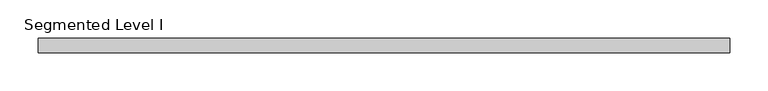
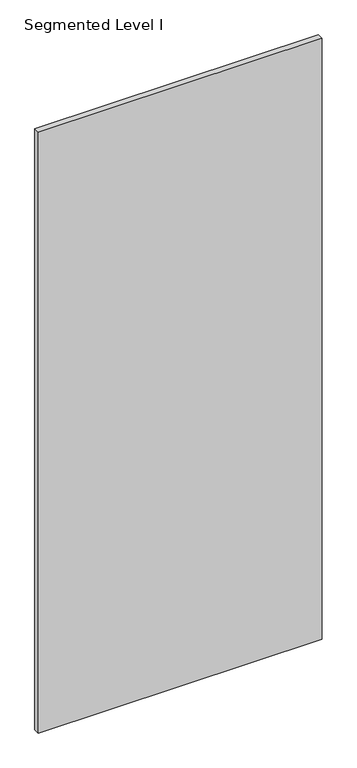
"""IFC4 building model written with IfcOpenShell, lengths in millimetres: proxy geometry, Panel-Fascia-Teknion-Altos-Standard : Segmented Level I."""

import ifcopenshell
import ifcopenshell.guid

model = None  # the IFC model being written
_history = None  # IfcOwnerHistory: only IFC2X3 demands one
_inside = {}  # id of a spatial element -> (the spatial element, [elements in it])
_under = {}  # id of a project, library or spatial element -> (it, [spatial elements below it])
_declared = {}  # id of a project -> (the project, [libraries it declares])
_typed = {}  # id of a type object -> (the type object, [elements of that type])
_made_of = {}  # id of a material, layer set ... -> (it, [elements and type objects made of it])


def new_model(schema):
    """Start an empty IFC model of exactly this schema.

    Asked for "IFC4X3", IfcOpenShell would pick the latest addendum, in which some entities
    have other attributes; the version numbers below select the first issue.
    IFC2X3 requires an IfcOwnerHistory on every rooted entity: one is made here for all.
    """
    global model, _history
    if schema == "IFC4X3":
        model = ifcopenshell.file(schema_version=(4, 3, 0, 0))
    else:
        model = ifcopenshell.file(schema=schema)
    _inside.clear()
    _under.clear()
    _declared.clear()
    _typed.clear()
    _made_of.clear()
    _history = None
    if model.schema == "IFC2X3":
        org = make("IfcOrganization", Name="unknown")
        user = make(
            "IfcPersonAndOrganization",
            ThePerson=make("IfcPerson", FamilyName="unknown"),
            TheOrganization=org,
        )
        app = make(
            "IfcApplication",
            ApplicationDeveloper=org,
            Version="unknown",
            ApplicationFullName="unknown",
            ApplicationIdentifier="unknown",
        )
        _history = make(
            "IfcOwnerHistory",
            OwningUser=user,
            OwningApplication=app,
            ChangeAction="ADDED",
            CreationDate=0,
        )
    return model


def make(cls, **values):
    """One entity of the class cls with the attributes given. An attribute that is None is left unset."""
    return model.create_entity(
        cls, **{name: value for name, value in values.items() if value is not None}
    )


def rooted(cls, **values):
    """An entity with a GlobalId (a new one), such as an element, a storey or a relation."""
    return make(cls, GlobalId=ifcopenshell.guid.new(), OwnerHistory=_history, **values)


def si_unit(unit_type, name, prefix=None):
    """IfcSIUnit, for example si_unit("LENGTHUNIT", "METRE", prefix="MILLI")."""
    return make("IfcSIUnit", UnitType=unit_type, Prefix=prefix, Name=name)


def assignment(units):
    """IfcUnitAssignment: the units of a project."""
    return None if units is None else make("IfcUnitAssignment", Units=units)


def point(xyz):
    """IfcCartesianPoint."""
    return None if xyz is None else make("IfcCartesianPoint", Coordinates=xyz)


def direction(xyz):
    """IfcDirection."""
    return None if xyz is None else make("IfcDirection", DirectionRatios=xyz)


def frame(location, z_axis=None, x_axis=None):
    """IfcAxis2Placement3D, a coordinate frame: its origin and axes. An axis left out is left unset."""
    return make(
        "IfcAxis2Placement3D",
        Location=point(location),
        Axis=direction(z_axis),
        RefDirection=direction(x_axis),
    )


def origin():
    """The frame at (0, 0, 0) with its axes left unset."""
    return frame((0.0, 0.0, 0.0))


def place(relative_to, where):
    """IfcLocalPlacement: puts the frame where relative to a parent placement (None: the world)."""
    return make(
        "IfcLocalPlacement", PlacementRelTo=relative_to, RelativePlacement=where
    )


def context(
    kind, dimensions, precision=None, world=None, true_north=None, identifier=None
):
    """IfcGeometricRepresentationContext, for example the 3D "Model" context."""
    return make(
        "IfcGeometricRepresentationContext",
        ContextIdentifier=identifier,
        ContextType=kind,
        CoordinateSpaceDimension=dimensions,
        Precision=precision,
        WorldCoordinateSystem=world,
        TrueNorth=true_north,
    )


def project(units=None, contexts=None):
    """IfcProject with its units and contexts."""
    return rooted(
        "IfcProject",
        Name="project",
        RepresentationContexts=contexts,
        UnitsInContext=assignment(units),
    )


def spatial(cls, under=None, at=None, **own):
    """A site, building, storey or space (cls), placed at a placement, below another one or the project."""
    s = rooted(cls, ObjectPlacement=at, **own)
    if under is not None:
        _under.setdefault(under.id(), (under, []))[1].append(s)
    return s


def polyline(points):
    """IfcPolyline through the points."""
    return make("IfcPolyline", Points=[point(p) for p in points])


def outline(outer, holes=None, kind="AREA"):
    """IfcArbitraryClosedProfileDef: a profile drawn as a closed curve; with holes, ...WithVoids."""
    if holes is None:
        return make("IfcArbitraryClosedProfileDef", ProfileType=kind, OuterCurve=outer)
    return make(
        "IfcArbitraryProfileDefWithVoids",
        ProfileType=kind,
        OuterCurve=outer,
        InnerCurves=holes,
    )


def extrude(swept, where, along, depth):
    """IfcExtrudedAreaSolid: the profile swept, set in the frame where, extruded along a direction by depth."""
    return make(
        "IfcExtrudedAreaSolid",
        SweptArea=swept,
        Position=where,
        ExtrudedDirection=direction(along),
        Depth=depth,
    )


def shape(context_of_items, identifier, shape_type, items):
    """IfcShapeRepresentation: the items that make up one representation, for example the "Body"."""
    return make(
        "IfcShapeRepresentation",
        ContextOfItems=context_of_items,
        RepresentationIdentifier=identifier,
        RepresentationType=shape_type,
        Items=items,
    )


def source(mapping_origin, context_of_items, identifier, shape_type, items):
    """IfcRepresentationMap: a shape defined once, which mapped items show again and again."""
    return make(
        "IfcRepresentationMap",
        MappingOrigin=mapping_origin,
        MappedRepresentation=shape(context_of_items, identifier, shape_type, items),
    )


def transform(
    local_origin,
    x_axis=None,
    y_axis=None,
    z_axis=None,
    scale=None,
    scale2=None,
    scale3=None,
    uniform=True,
):
    """IfcCartesianTransformationOperator3D, or its non-uniform kind. x_axis, y_axis, z_axis: its Axis1, 2, 3."""
    if uniform:
        return make(
            "IfcCartesianTransformationOperator3D",
            Axis1=direction(x_axis),
            Axis2=direction(y_axis),
            LocalOrigin=point(local_origin),
            Scale=scale,
            Axis3=direction(z_axis),
        )
    return make(
        "IfcCartesianTransformationOperator3DnonUniform",
        Axis1=direction(x_axis),
        Axis2=direction(y_axis),
        LocalOrigin=point(local_origin),
        Scale=scale,
        Axis3=direction(z_axis),
        Scale2=scale2,
        Scale3=scale3,
    )


def mapped(mapping_source, mapping_target):
    """IfcMappedItem: shows the shape of a source again, moved by a transform."""
    return make(
        "IfcMappedItem", MappingSource=mapping_source, MappingTarget=mapping_target
    )


def made_of(thing, what):
    """Note that an element or type object is made of a material, layer set ...; save() writes the relation."""
    if what is not None:
        _made_of.setdefault(what.id(), (what, []))[1].append(thing)
    return thing


def element(
    cls,
    number,
    at=None,
    inside=None,
    cuts=None,
    type_object=None,
    material=None,
    context=None,
    identifier="Body",
    shape_type=None,
    held_by="IfcProductDefinitionShape",
    body=None,
    shapes=None,
    **own,
):
    """One element of the class cls, such as IfcWall. Its Tag is "e" and its number.

    at: its placement. inside: the storey or other place that contains it. cuts: it is an
    opening in that element (IfcRelVoidsElement). A single representation is given by context,
    identifier, shape_type and body (its items); several are given by shapes. held_by: the class
    of the entity that holds the representations. save() writes the other relations.
    """
    e = rooted(cls, Tag="e%d" % number, ObjectPlacement=at, **own)
    if body is not None:
        shapes = [shape(context, identifier, shape_type, body)]
    if shapes is not None:
        e.Representation = make(held_by, Representations=shapes)
    if inside is not None:
        _inside.setdefault(inside.id(), (inside, []))[1].append(e)
    if cuts is not None:
        rooted(
            "IfcRelVoidsElement", RelatingBuildingElement=cuts, RelatedOpeningElement=e
        )
    if type_object is not None:
        _typed.setdefault(type_object.id(), (type_object, []))[1].append(e)
    return made_of(e, material)


def aggregate(whole, parts):
    """IfcRelAggregates: a whole, such as a stair, and the parts it consists of."""
    return rooted("IfcRelAggregates", RelatingObject=whole, RelatedObjects=parts)


def save(model, path):
    """Write the relations noted so far, then the file.

    IfcRelAggregates (storeys below a building ...), IfcRelContainedInSpatialStructure (elements
    in a storey), IfcRelDefinesByType, IfcRelAssociatesMaterial and IfcRelDeclares: one each for
    every whole, place, type object, material and project.
    """
    for whole, parts in _under.values():
        aggregate(whole, parts)
    for where, things in _inside.values():
        rooted(
            "IfcRelContainedInSpatialStructure",
            RelatedElements=things,
            RelatingStructure=where,
        )
    for kind, things in _typed.values():
        rooted("IfcRelDefinesByType", RelatedObjects=things, RelatingType=kind)
    for what, things in _made_of.values():
        rooted("IfcRelAssociatesMaterial", RelatedObjects=things, RelatingMaterial=what)
    for by, libraries in _declared.values():
        rooted("IfcRelDeclares", RelatingContext=by, RelatedDefinitions=libraries)
    model.write(path)


def segmented_level_i_b619f2b0(model_context):
    return source(origin(), model_context, "Body", "SweptSolid", [
        extrude(outline(polyline([(454.025, -9.525), (-454.025, -9.525), (-454.025, 9.525), (454.025, 9.525), (454.025, -9.525)])), frame((0.0, 0.0, 3.175), z_axis=(0.0, 0.0, 1.0), x_axis=(1.0, 0.0, 0.0)), (0.0, 0.0, 1.0), 2029.968),
    ])


if __name__ == "__main__":
    model = new_model("IFC4")
    model_context = context("Model", 3, world=origin())
    ifc_project = project(units=[si_unit("LENGTHUNIT", "METRE", prefix="MILLI")], contexts=[model_context])
    site = spatial("IfcSite", under=ifc_project)
    building = spatial("IfcBuilding", under=site)
    placement = place(None, origin())
    segmented_level_i_shape = segmented_level_i_b619f2b0(model_context)
    element("IfcBuildingElementProxy", 1, Name="Panel-Fascia-Teknion-Altos-Standard : Segmented Level I", ObjectType="Panel-Fascia-Teknion-Altos-Standard : Segmented Level I", at=placement, inside=building, context=model_context, shape_type="MappedRepresentation", body=[
        mapped(segmented_level_i_shape, transform((0.0, 0.0, 0.0), x_axis=(1.0, 0.0, 0.0), y_axis=(0.0, 1.0, 0.0), z_axis=(0.0, 0.0, 1.0))),
    ])
    save(model, "model.ifc")
